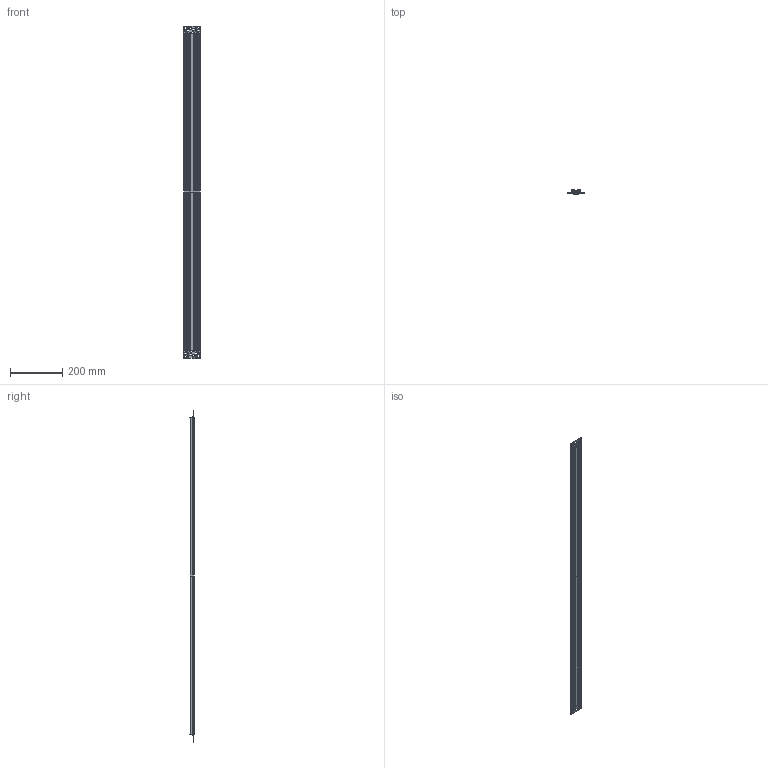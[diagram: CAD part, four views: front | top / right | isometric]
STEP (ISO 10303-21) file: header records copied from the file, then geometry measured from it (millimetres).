
FILE_DESCRIPTION (( 'STEP AP214' ), '1' );
FILE_NAME ('20LDL-RPT Step.STEP', '2023-02-14T18:24:45', ( '' ), ( '' ), 'SwSTEP 2.0', 'SolidWorks 2021', '' );
FILE_SCHEMA (( 'AUTOMOTIVE_DESIGN' ));
Length unit declared in the file: inch
Products named in the file (4): 710-10050-300_24.000in Straight; 730-20116-300; 20LDL-RPT Step; 710-10012-400_24000
Assembly tree (6 placements, depth 2):
  20LDL-RPT Step
    710-10050-300_24.000in Straight  x2
    730-20116-300  x2
    710-10012-400_24000  x2
Bounding box: 64 x 15.63 x 1275.79 mm (x, y, z)
Volume: 254458.5 mm3; surface area: 380749.8 mm2
Topology: 6 solids, 6 shells, 950 faces, 2756 edges, 1824 vertices
Faces by surface type: plane 562, cylinder 340, bspline 48
Entity records: 17543 total; most frequent: CARTESIAN_POINT 4610, ORIENTED_EDGE 2756, DIRECTION 2574, EDGE_CURVE 1378, LINE 982, VECTOR 982, VERTEX_POINT 912, AXIS2_PLACEMENT_3D 796
